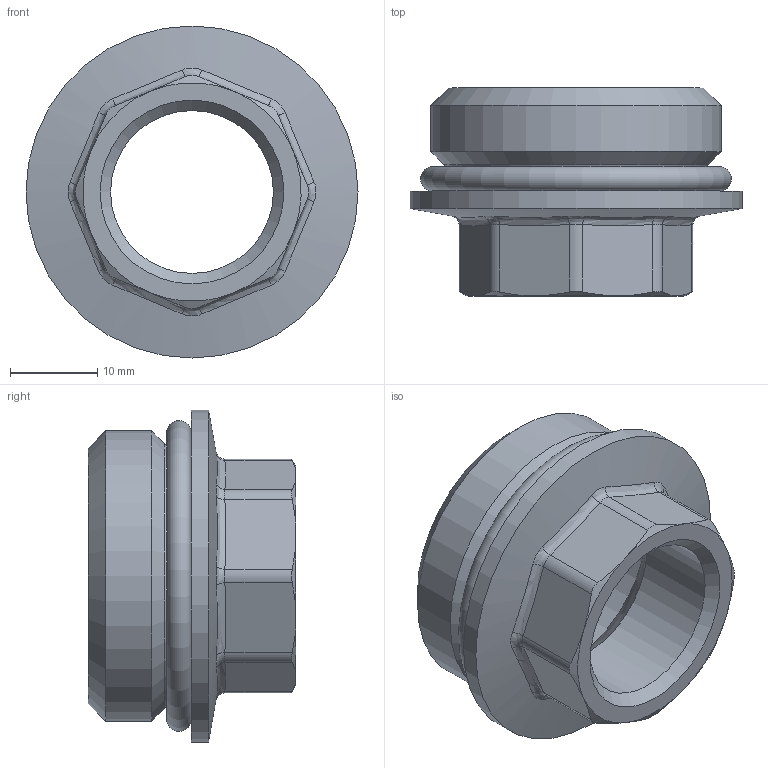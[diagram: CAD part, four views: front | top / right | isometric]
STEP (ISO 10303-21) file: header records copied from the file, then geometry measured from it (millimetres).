
FILE_DESCRIPTION(('STEP AP242'), '1');
FILE_NAME('覆.302634.087.000 捘 - VTr.585.N.0604', '', ('UNSPECIFIED'), ('UNSPECIFIED'), 'C3D Converter', 'C3D Toolkit', '');
FILE_SCHEMA(('AP242_MANAGED_MODEL_BASED_3D_ENGINEERING_MIM_LF { 1 0 10303 442 1 1 4 }'));
Length unit declared in the file: millimetre
Products named in the file (3): ВР.302634.087.000 СБ; ВР.753157.030
Assembly tree (2 placements, depth 2):
  ВР.302634.087.000 СБ
    ВР.753157.030
    (unnamed)
Bounding box: 38 x 23.8 x 38 mm (x, y, z)
Volume: 8621.1 mm3; surface area: 6265.9 mm2
Topology: 2 solids, 2 shells, 56 faces, 135 edges, 84 vertices
Faces by surface type: bspline 16, cylinder 13, cone 13, plane 11, torus 3
Full cylindrical faces by diameter (mm): 18.632 x1, 25.5 x1, 30 x1, 33.249 x1, 38 x1
Entity records: 3661 total; most frequent: CARTESIAN_POINT 2440, ORIENTED_EDGE 220, DIRECTION 162, EDGE_CURVE 110, B_SPLINE_CURVE_WITH_KNOTS 74, AXIS2_PLACEMENT_3D 73, EDGE_LOOP 71, VERTEX_POINT 71
